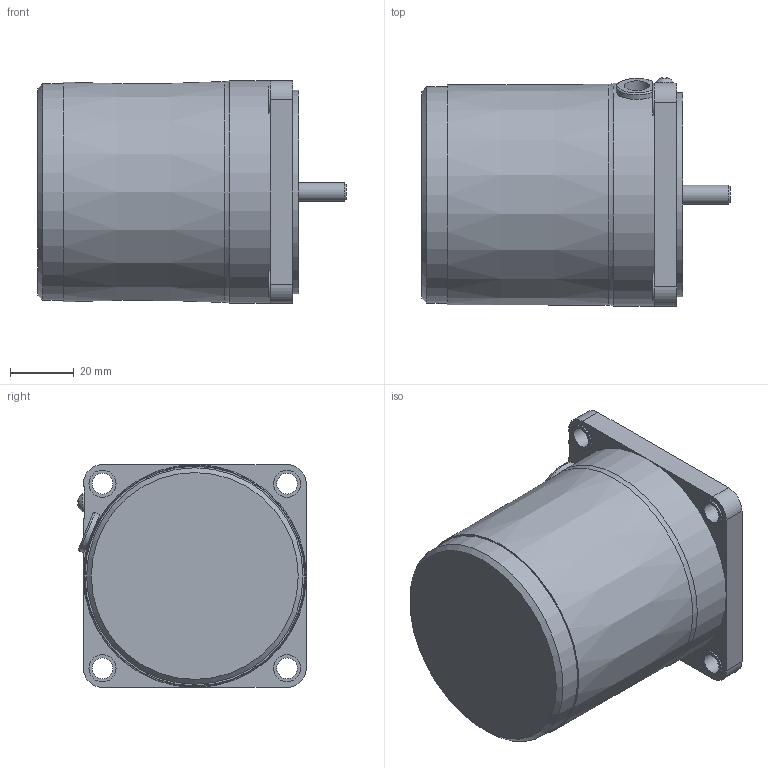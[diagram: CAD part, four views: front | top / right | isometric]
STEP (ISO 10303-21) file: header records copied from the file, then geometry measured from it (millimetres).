
FILE_DESCRIPTION(/* description */ (''),/* implementation_level */ '2;1');
FILE_NAME(/* name */ 'E:\도면작업\2016\0704) 미주향 SG 도면\3D MOTOR\SG7I15G_.stp',/* time_stamp */ '2016-07-22T13:43:57+09:00',/* author */ ('jy-jung'),/* organization */ (''),/* preprocessor_version */ 'ST-DEVELOPER v15.6',/* originating_system */ 'Autodesk Inventor 2015',/* authorisation */ '');
FILE_SCHEMA (('AUTOMOTIVE_DESIGN { 1 0 10303 214 3 1 1 }'));
Length unit declared in the file: millimetre
Products named in the file (1): 부품1
Bounding box: 96.8 x 71.76 x 70 mm (x, y, z)
Volume: 304985.5 mm3; surface area: 30294.4 mm2
Topology: 1 solids, 2 shells, 101 faces, 254 edges, 169 vertices
Faces by surface type: plane 63, cylinder 32, cone 3, torus 2, bspline 1
Full cylindrical faces by diameter (mm): 5.6 x1, 5.96 x1, 6.5 x4, 8 x1, 8.5 x4, 10 x1, 28 x1, 64 x1, 68 x1, 70 x1
Entity records: 3171 total; most frequent: CARTESIAN_POINT 643, DIRECTION 496, ORIENTED_EDGE 458, EDGE_CURVE 229, AXIS2_PLACEMENT_3D 185, VERTEX_POINT 165, EDGE_LOOP 144, LINE 126
